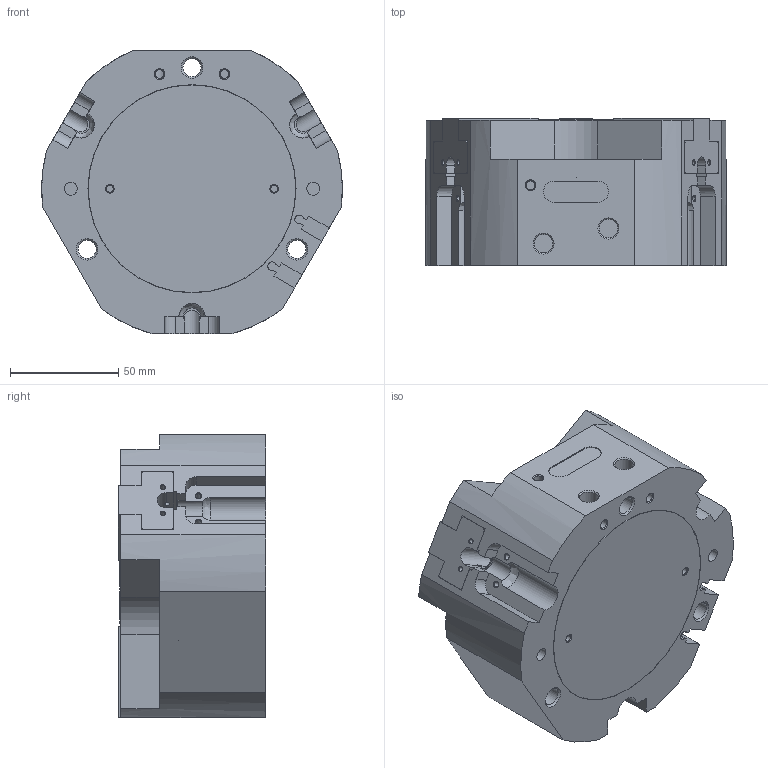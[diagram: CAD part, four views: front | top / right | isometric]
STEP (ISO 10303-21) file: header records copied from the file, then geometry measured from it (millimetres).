
FILE_DESCRIPTION( ( 'STEP AP214' ), '1' );
FILE_NAME( 'C:/Users/ashearer/Desktop/Mindman New CAD/Grippers/MCHJ-125-SD_0_.stp', ' ', ( ' ' ), ( ' ' ), 'PSStep 15.0.47', 'PARTsolutions', ' ' );
FILE_SCHEMA( ( 'AUTOMOTIVE_DESIGN { 1 0 10303 214 1 1 1 1 }' ) );
Length unit declared in the file: millimetre
Products named in the file (4): MCHJ-125-SD(0); _MCHJ-125-SD(dummy_0); _MCHJ-125-SD-body; _MCHJ-125-SD-finger
Assembly tree (5 placements, depth 2):
  MCHJ-125-SD(0)
    _MCHJ-125-SD(dummy_0)
    _MCHJ-125-SD-body
    _MCHJ-125-SD-finger  x3
Bounding box: 139 x 68 x 131 mm (x, y, z)
Volume: 813845.8 mm3; surface area: 115005.7 mm2
Topology: 4 solids, 4 shells, 494 faces, 1241 edges, 806 vertices
Faces by surface type: plane 322, cylinder 117, cone 52, bspline 3
Full cylindrical faces by diameter (mm): 2.013 x12, 2.459 x6, 2.5 x6, 3.242 x2, 3.6 x6, 4.134 x12, 6 x2, 8.376 x3, 8.566 x2, 10 x9, 15 x3, 96 x1, 96.2 x1
Entity records: 12400 total; most frequent: CARTESIAN_POINT 1739, DIRECTION 1663, ORIENTED_EDGE 1526, EDGE_CURVE 763, AXIS2_PLACEMENT_3D 569, VERTEX_POINT 544, LINE 525, VECTOR 525
